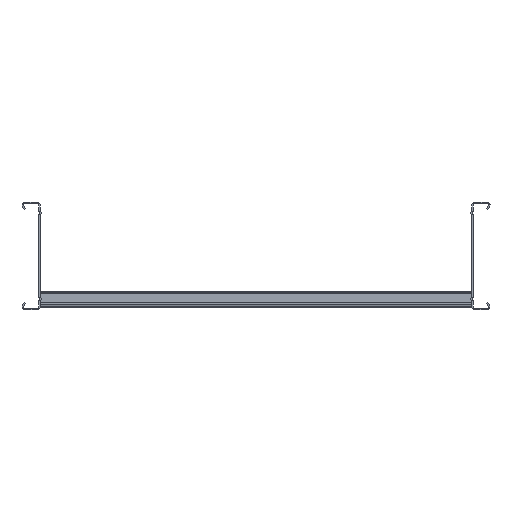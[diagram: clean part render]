
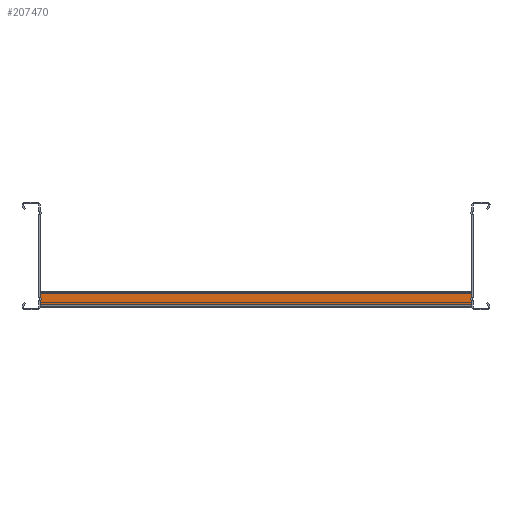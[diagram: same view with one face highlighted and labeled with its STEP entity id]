
A CAD part, left-side view. The second image highlights one B-rep face of the part: STEP entity #207470.
In plain terms, the highlighted planar face has unit normal (-1, 0, 0) as drawn and (1, 0, 0) by its records, which use the part's own axes.
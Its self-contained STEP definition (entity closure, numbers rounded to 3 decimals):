
#207080=CARTESIAN_POINT('',(39.75,900.,0.));
#207090=DIRECTION('',(1.,0.,0.));
#207100=DIRECTION('',(0.,-1.,0.));
#207110=AXIS2_PLACEMENT_3D('',#207080,#207090,#207100);
#207120=PLANE('',#207110);
#207130=CARTESIAN_POINT('',(39.75,0.,0.));
#207140=DIRECTION('',(0.,-1.,0.));
#207150=VECTOR('',#207140,1.);
#207160=LINE('',#207130,#207150);
#207170=CARTESIAN_POINT('',(39.75,897.,0.));
#207180=VERTEX_POINT('',#207170);
#207190=CARTESIAN_POINT('',(39.75,881.,0.));
#207200=VERTEX_POINT('',#207190);
#207210=EDGE_CURVE('',#207180,#207200,#207160,.T.);
#207220=ORIENTED_EDGE('',*,*,#207210,.F.);
#207230=CARTESIAN_POINT('',(39.75,881.,0.));
#207240=DIRECTION('',(0.,0.,1.));
#207250=VECTOR('',#207240,1.);
#207260=LINE('',#207230,#207250);
#207270=CARTESIAN_POINT('',(39.75,881.,600.));
#207280=VERTEX_POINT('',#207270);
#207290=EDGE_CURVE('',#207200,#207280,#207260,.T.);
#207300=ORIENTED_EDGE('',*,*,#207290,.F.);
#207310=CARTESIAN_POINT('',(39.75,0.,600.));
#207320=DIRECTION('',(0.,1.,0.));
#207330=VECTOR('',#207320,1.);
#207340=LINE('',#207310,#207330);
#207350=CARTESIAN_POINT('',(39.75,897.,600.));
#207360=VERTEX_POINT('',#207350);
#207370=EDGE_CURVE('',#207280,#207360,#207340,.T.);
#207380=ORIENTED_EDGE('',*,*,#207370,.F.);
#207390=CARTESIAN_POINT('',(39.75,897.,0.));
#207400=DIRECTION('',(0.,0.,1.));
#207410=VECTOR('',#207400,1.);
#207420=LINE('',#207390,#207410);
#207430=EDGE_CURVE('',#207180,#207360,#207420,.T.);
#207440=ORIENTED_EDGE('',*,*,#207430,.T.);
#207450=EDGE_LOOP('',(#207440,#207380,#207300,#207220));
#207460=FACE_OUTER_BOUND('',#207450,.T.);
#207470=ADVANCED_FACE('',(#207460),#207120,.T.);
